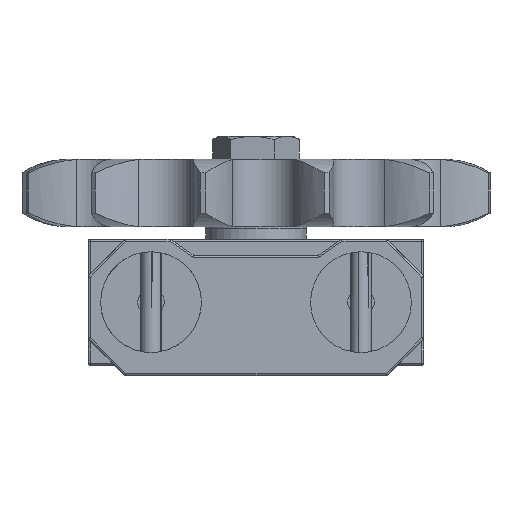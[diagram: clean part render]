
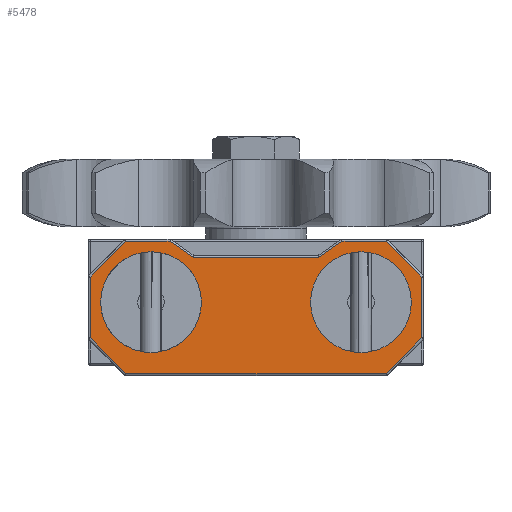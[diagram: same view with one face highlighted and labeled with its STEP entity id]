
A CAD part, front view. The second image highlights one B-rep face of the part: STEP entity #5478.
In plain terms, the highlighted planar face has unit normal (0, -1, 0) as drawn and (0, 1, 0) by its records, which use the part's own axes.
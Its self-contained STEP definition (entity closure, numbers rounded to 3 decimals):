
#11 = CARTESIAN_POINT ( 'NONE',  ( 30.993, 52., 14.5 ) ) ;
#93 = EDGE_CURVE ( 'NONE', #5461, #1929, #10812, .T. ) ;
#103 = CARTESIAN_POINT ( 'NONE',  ( 30.846, 52., -17.146 ) ) ;
#241 = FACE_BOUND ( 'NONE', #9532, .T. ) ;
#300 = AXIS2_PLACEMENT_3D ( 'NONE', #11053, #7158, #7109 ) ;
#313 = CARTESIAN_POINT ( 'NONE',  ( 0., 52., 0. ) ) ;
#433 = CARTESIAN_POINT ( 'NONE',  ( -25., 52., 0. ) ) ;
#613 = CARTESIAN_POINT ( 'NONE',  ( 0., 52., 14.5 ) ) ;
#626 = CARTESIAN_POINT ( 'NONE',  ( -39.5, 52., 0. ) ) ;
#685 = LINE ( 'NONE', #4424, #2695 ) ;
#842 = DIRECTION ( 'NONE',  ( 1., 0., 0. ) ) ;
#854 = ORIENTED_EDGE ( 'NONE', *, *, #7356, .F. ) ;
#873 = LINE ( 'NONE', #5803, #12368 ) ;
#911 = DIRECTION ( 'NONE',  ( 0., 0., 1. ) ) ;
#917 = CARTESIAN_POINT ( 'NONE',  ( 25., 52., -12. ) ) ;
#1016 = VERTEX_POINT ( 'NONE', #11772 ) ;
#1094 = CARTESIAN_POINT ( 'NONE',  ( -30.993, 52., 14.5 ) ) ;
#1198 = ORIENTED_EDGE ( 'NONE', *, *, #5279, .T. ) ;
#1249 = VECTOR ( 'NONE', #5890, 1000. ) ;
#1257 = ORIENTED_EDGE ( 'NONE', *, *, #3676, .T. ) ;
#1317 = VECTOR ( 'NONE', #9352, 1000. ) ;
#1402 = VERTEX_POINT ( 'NONE', #1690 ) ;
#1502 = EDGE_CURVE ( 'NONE', #1016, #10017, #6568, .T. ) ;
#1544 = CARTESIAN_POINT ( 'NONE',  ( 39.5, 52., 5.993 ) ) ;
#1690 = CARTESIAN_POINT ( 'NONE',  ( -39.5, 52., -8.493 ) ) ;
#1880 = LINE ( 'NONE', #2710, #3414 ) ;
#1929 = VERTEX_POINT ( 'NONE', #11539 ) ;
#2280 = ORIENTED_EDGE ( 'NONE', *, *, #3021, .T. ) ;
#2374 = CIRCLE ( 'NONE', #2905, 12. ) ;
#2405 = CARTESIAN_POINT ( 'NONE',  ( 20.477, 52., 14.5 ) ) ;
#2459 = VECTOR ( 'NONE', #11190, 1000. ) ;
#2498 = CARTESIAN_POINT ( 'NONE',  ( 30.993, 52., -17. ) ) ;
#2505 = CARTESIAN_POINT ( 'NONE',  ( 39.646, 52., 5.846 ) ) ;
#2513 = CIRCLE ( 'NONE', #3588, 12. ) ;
#2542 = LINE ( 'NONE', #5554, #7427 ) ;
#2583 = VERTEX_POINT ( 'NONE', #2405 ) ;
#2639 = VERTEX_POINT ( 'NONE', #9435 ) ;
#2695 = VECTOR ( 'NONE', #3480, 1000. ) ;
#2710 = CARTESIAN_POINT ( 'NONE',  ( -30.846, 52., 14.646 ) ) ;
#2905 = AXIS2_PLACEMENT_3D ( 'NONE', #433, #6128, #7121 ) ;
#3021 = EDGE_CURVE ( 'NONE', #6933, #11610, #3650, .T. ) ;
#3121 = ORIENTED_EDGE ( 'NONE', *, *, #93, .T. ) ;
#3125 = VERTEX_POINT ( 'NONE', #4683 ) ;
#3129 = ORIENTED_EDGE ( 'NONE', *, *, #9866, .T. ) ;
#3409 = VERTEX_POINT ( 'NONE', #8637 ) ;
#3414 = VECTOR ( 'NONE', #6620, 1000. ) ;
#3480 = DIRECTION ( 'NONE',  ( -0.707, 0., 0.707 ) ) ;
#3502 = VERTEX_POINT ( 'NONE', #8469 ) ;
#3588 = AXIS2_PLACEMENT_3D ( 'NONE', #4677, #4795, #11698 ) ;
#3650 = LINE ( 'NONE', #2505, #10559 ) ;
#3676 = EDGE_CURVE ( 'NONE', #3502, #3409, #7020, .T. ) ;
#3788 = CARTESIAN_POINT ( 'NONE',  ( 14.75, 52., 10.6 ) ) ;
#3879 = ORIENTED_EDGE ( 'NONE', *, *, #1502, .T. ) ;
#3903 = VECTOR ( 'NONE', #5931, 1000. ) ;
#4353 = ORIENTED_EDGE ( 'NONE', *, *, #12022, .T. ) ;
#4424 = CARTESIAN_POINT ( 'NONE',  ( -39.646, 52., -8.346 ) ) ;
#4595 = EDGE_LOOP ( 'NONE', ( #11316, #3121, #1198, #1257, #8356, #3129, #2280, #10909, #4353, #7990, #7892, #5658 ) ) ;
#4677 = CARTESIAN_POINT ( 'NONE',  ( -25., 52., 0. ) ) ;
#4683 = CARTESIAN_POINT ( 'NONE',  ( -25., 52., -12. ) ) ;
#4795 = DIRECTION ( 'NONE',  ( 0., 1., 0. ) ) ;
#5124 = AXIS2_PLACEMENT_3D ( 'NONE', #313, #10052, #12097 ) ;
#5137 = FACE_BOUND ( 'NONE', #8550, .T. ) ;
#5279 = EDGE_CURVE ( 'NONE', #1929, #3502, #873, .T. ) ;
#5288 = CARTESIAN_POINT ( 'NONE',  ( 0., 52., -17. ) ) ;
#5461 = VERTEX_POINT ( 'NONE', #1094 ) ;
#5478 = ADVANCED_FACE ( 'NONE', ( #9139, #241, #5137 ), #7254, .F. ) ;
#5554 = CARTESIAN_POINT ( 'NONE',  ( 20.607, 52., 14.59 ) ) ;
#5658 = ORIENTED_EDGE ( 'NONE', *, *, #9484, .T. ) ;
#5664 = LINE ( 'NONE', #5288, #2459 ) ;
#5666 = DIRECTION ( 'NONE',  ( 1., 0., 0. ) ) ;
#5803 = CARTESIAN_POINT ( 'NONE',  ( -15.037, 52., 10.69 ) ) ;
#5890 = DIRECTION ( 'NONE',  ( 0., 0., 1. ) ) ;
#5931 = DIRECTION ( 'NONE',  ( -0.707, 0., -0.707 ) ) ;
#6128 = DIRECTION ( 'NONE',  ( 0., 1., 0. ) ) ;
#6316 = EDGE_CURVE ( 'NONE', #8508, #1402, #685, .T. ) ;
#6420 = ORIENTED_EDGE ( 'NONE', *, *, #7690, .T. ) ;
#6469 = ORIENTED_EDGE ( 'NONE', *, *, #10297, .F. ) ;
#6568 = CIRCLE ( 'NONE', #7023, 12. ) ;
#6620 = DIRECTION ( 'NONE',  ( 0.707, 0., 0.707 ) ) ;
#6704 = CARTESIAN_POINT ( 'NONE',  ( 39.5, 52., -8.493 ) ) ;
#6925 = CIRCLE ( 'NONE', #300, 12. ) ;
#6933 = VERTEX_POINT ( 'NONE', #11 ) ;
#6935 = EDGE_CURVE ( 'NONE', #11610, #9368, #12477, .T. ) ;
#6991 = CARTESIAN_POINT ( 'NONE',  ( 39.5, 52., 0. ) ) ;
#7020 = LINE ( 'NONE', #3788, #12238 ) ;
#7023 = AXIS2_PLACEMENT_3D ( 'NONE', #9662, #10686, #911 ) ;
#7109 = DIRECTION ( 'NONE',  ( 0., 0., 1. ) ) ;
#7121 = DIRECTION ( 'NONE',  ( 0., 0., 1. ) ) ;
#7158 = DIRECTION ( 'NONE',  ( 0., -1., 0. ) ) ;
#7254 = PLANE ( 'NONE',  #5124 ) ;
#7273 = LINE ( 'NONE', #103, #3903 ) ;
#7334 = DIRECTION ( 'NONE',  ( 0.707, 0., -0.707 ) ) ;
#7344 = CARTESIAN_POINT ( 'NONE',  ( -39.5, 52., 5.993 ) ) ;
#7356 = EDGE_CURVE ( 'NONE', #2639, #3125, #2513, .T. ) ;
#7427 = VECTOR ( 'NONE', #11800, 1000. ) ;
#7492 = CARTESIAN_POINT ( 'NONE',  ( 0., 52., 14.5 ) ) ;
#7659 = VECTOR ( 'NONE', #5666, 1000. ) ;
#7690 = EDGE_CURVE ( 'NONE', #10017, #1016, #6925, .T. ) ;
#7727 = DIRECTION ( 'NONE',  ( 0.819, 0., -0.574 ) ) ;
#7892 = ORIENTED_EDGE ( 'NONE', *, *, #6316, .T. ) ;
#7902 = EDGE_CURVE ( 'NONE', #8364, #5461, #1880, .T. ) ;
#7990 = ORIENTED_EDGE ( 'NONE', *, *, #9785, .T. ) ;
#8036 = VECTOR ( 'NONE', #9965, 1000. ) ;
#8356 = ORIENTED_EDGE ( 'NONE', *, *, #12278, .T. ) ;
#8364 = VERTEX_POINT ( 'NONE', #7344 ) ;
#8469 = CARTESIAN_POINT ( 'NONE',  ( -14.908, 52., 10.6 ) ) ;
#8508 = VERTEX_POINT ( 'NONE', #10907 ) ;
#8550 = EDGE_LOOP ( 'NONE', ( #3879, #6420 ) ) ;
#8637 = CARTESIAN_POINT ( 'NONE',  ( 14.908, 52., 10.6 ) ) ;
#9139 = FACE_OUTER_BOUND ( 'NONE', #4595, .T. ) ;
#9352 = DIRECTION ( 'NONE',  ( 1., 0., 0. ) ) ;
#9368 = VERTEX_POINT ( 'NONE', #6704 ) ;
#9371 = LINE ( 'NONE', #626, #1249 ) ;
#9435 = CARTESIAN_POINT ( 'NONE',  ( -25., 52., 12. ) ) ;
#9484 = EDGE_CURVE ( 'NONE', #1402, #8364, #9371, .T. ) ;
#9532 = EDGE_LOOP ( 'NONE', ( #854, #6469 ) ) ;
#9662 = CARTESIAN_POINT ( 'NONE',  ( 25., 52., 0. ) ) ;
#9785 = EDGE_CURVE ( 'NONE', #10471, #8508, #5664, .T. ) ;
#9866 = EDGE_CURVE ( 'NONE', #2583, #6933, #10272, .T. ) ;
#9965 = DIRECTION ( 'NONE',  ( 0., 0., -1. ) ) ;
#10017 = VERTEX_POINT ( 'NONE', #917 ) ;
#10052 = DIRECTION ( 'NONE',  ( 0., -1., 0. ) ) ;
#10272 = LINE ( 'NONE', #613, #7659 ) ;
#10297 = EDGE_CURVE ( 'NONE', #3125, #2639, #2374, .T. ) ;
#10471 = VERTEX_POINT ( 'NONE', #2498 ) ;
#10559 = VECTOR ( 'NONE', #7334, 1000. ) ;
#10686 = DIRECTION ( 'NONE',  ( 0., -1., 0. ) ) ;
#10812 = LINE ( 'NONE', #7492, #1317 ) ;
#10907 = CARTESIAN_POINT ( 'NONE',  ( -30.993, 52., -17. ) ) ;
#10909 = ORIENTED_EDGE ( 'NONE', *, *, #6935, .T. ) ;
#11053 = CARTESIAN_POINT ( 'NONE',  ( 25., 52., 0. ) ) ;
#11190 = DIRECTION ( 'NONE',  ( -1., 0., 0. ) ) ;
#11316 = ORIENTED_EDGE ( 'NONE', *, *, #7902, .T. ) ;
#11539 = CARTESIAN_POINT ( 'NONE',  ( -20.477, 52., 14.5 ) ) ;
#11610 = VERTEX_POINT ( 'NONE', #1544 ) ;
#11698 = DIRECTION ( 'NONE',  ( 0., 0., 1. ) ) ;
#11772 = CARTESIAN_POINT ( 'NONE',  ( 25., 52., 12. ) ) ;
#11800 = DIRECTION ( 'NONE',  ( 0.819, 0., 0.574 ) ) ;
#12022 = EDGE_CURVE ( 'NONE', #9368, #10471, #7273, .T. ) ;
#12097 = DIRECTION ( 'NONE',  ( 0., 0., -1. ) ) ;
#12238 = VECTOR ( 'NONE', #842, 1000. ) ;
#12278 = EDGE_CURVE ( 'NONE', #3409, #2583, #2542, .T. ) ;
#12368 = VECTOR ( 'NONE', #7727, 1000. ) ;
#12477 = LINE ( 'NONE', #6991, #8036 ) ;
